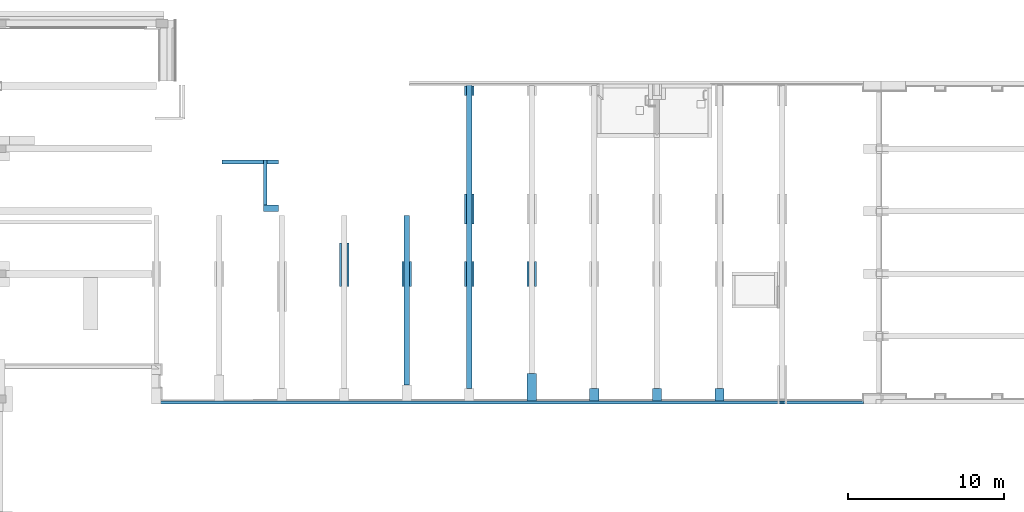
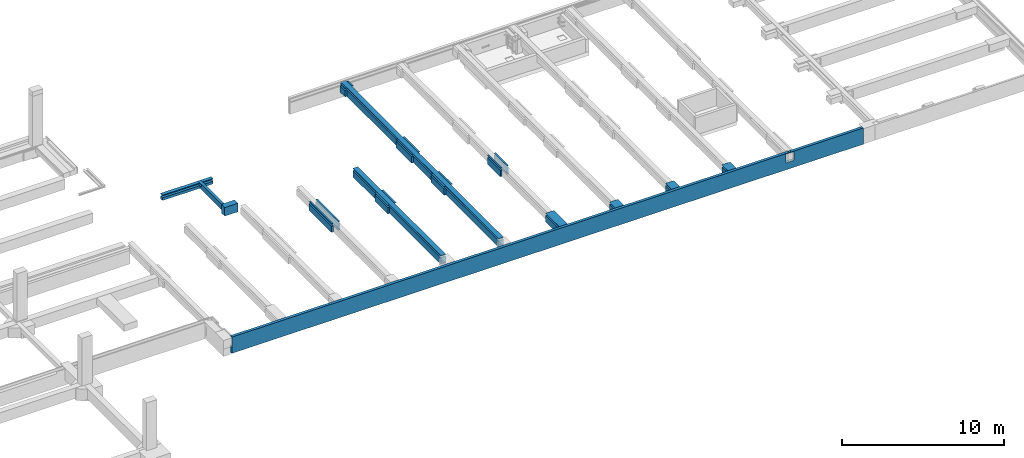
# One storey, part 5 of 17: 16 beams.
"""IFC2X3 building model written with IfcOpenShell, lengths in millimetres."""

from ifc_helpers import new_model, entity, si_unit, converted_unit, derived_unit, money_unit, direction, frame, origin_with_axes, place, context, subcontext, project, spatial, faceted_brep, material, type_object, element, save


model = new_model("IFC2X3")

# Units and contexts
model_context = context("Model", 3, precision=0.01, world=origin_with_axes(), true_north=direction((0.0, 1.0)))
body_context = subcontext(model_context, "Body", "Model", "MODEL_VIEW")
ifc_project = project(units=[si_unit("LENGTHUNIT", "METRE", prefix="MILLI"), si_unit("AREAUNIT", "SQUARE_METRE"), si_unit("VOLUMEUNIT", "CUBIC_METRE"), converted_unit("PLANEANGLEUNIT", "DEGREE", entity("IfcPlaneAngleMeasure", 0.0174532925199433), si_unit("PLANEANGLEUNIT", "RADIAN"), dimensions=[0, 0, 0, 0, 0, 0, 0]), money_unit("EUR"), converted_unit("TIMEUNIT", "Year", entity("IfcTimeMeasure", 31557600.0), si_unit("TIMEUNIT", "SECOND"), dimensions=[0, 0, 1, 0, 0, 0, 0]), si_unit("MASSUNIT", "GRAM", prefix="KILO"), si_unit("THERMODYNAMICTEMPERATUREUNIT", "DEGREE_CELSIUS"), si_unit("LUMINOUSINTENSITYUNIT", "LUMEN"), si_unit("ENERGYUNIT", "JOULE", prefix="MEGA"), derived_unit("THERMALCONDUCTANCEUNIT", [(si_unit("POWERUNIT", "WATT"), 1), (si_unit("LENGTHUNIT", "METRE"), -1), (si_unit("THERMODYNAMICTEMPERATUREUNIT", "KELVIN"), -1)]), derived_unit("SPECIFICHEATCAPACITYUNIT", [(si_unit("ENERGYUNIT", "JOULE"), 1), (si_unit("MASSUNIT", "GRAM", prefix="KILO"), -1), (si_unit("THERMODYNAMICTEMPERATUREUNIT", "KELVIN"), -1)]), derived_unit("MASSDENSITYUNIT", [(si_unit("MASSUNIT", "GRAM", prefix="KILO"), 1), (si_unit("VOLUMEUNIT", "CUBIC_METRE"), -1)])], contexts=[model_context])

# Site, building, storey
site_placement = place(None, origin_with_axes())
site = spatial("IfcSite", under=ifc_project, at=site_placement, Name="<site naam>", CompositionType="ELEMENT")
building_placement = place(site_placement, origin_with_axes())
building = spatial("IfcBuilding", under=site, at=building_placement, Name="<Naam gebouw>", CompositionType="ELEMENT")
storey_placement = place(building_placement, frame((0.0, 0.0, -1100.0), z_axis=(0.0, 0.0, 1.0), x_axis=(1.0, 0.0, 0.0)))
storey = spatial("IfcBuildingStorey", under=building, at=storey_placement, Name="-1 Fundering", CompositionType="ELEMENT", Elevation=-1100.0)

# Beams
ifc_material = material(Name="beton_gewapend C")
beam_type_1 = type_object("IfcBeamType", Name="beton_gewapend C 200 x 400", PredefinedType="BEAM")
beam_1_placement = place(storey_placement, frame((19055.00000000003, 15285.00000000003, 1100.0), z_axis=(0.0, 0.0, 1.0), x_axis=(-1.0, 0.0, 0.0)))
element("IfcBeam", 1, at=beam_1_placement, inside=storey, type_object=beam_type_1, material=ifc_material, Name="28_Balk_beton_gewapend", ObjectType="BEAM", context=body_context, shape_type="Brep", body=[
    faceted_brep([(0.0, 0.0, -200.0), (0.0, 419.8529820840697, -200.0), (0.0, 419.8529820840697, -50.00000000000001), (0.0, 0.0, -50.00000000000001), (0.0, 0.0, 0.0), (0.0, 2900.000011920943, 0.0), (0.0, 2900.000011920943, -400.0), (0.0, 0.0, -400.0), (199.9999999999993, 419.8267328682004, -200.0), (199.9999999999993, 0.0, -200.0), (199.9999999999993, 419.8267328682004, -50.00000000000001), (199.9999999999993, 0.0, -50.00000000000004), (199.9999999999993, 0.0, 0.0), (199.9999999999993, 2900.000011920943, 0.0), (199.9999999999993, 2900.000011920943, -400.0), (199.9999999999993, 0.0, -400.0)], [[[0, 1, 2, 3, 4, 5, 6, 7]], [[8, 1, 0, 9]], [[10, 2, 1, 8]], [[10, 11, 3, 2]], [[4, 3, 11, 12]], [[4, 12, 13, 5]], [[13, 14, 6, 5]], [[15, 7, 6, 14]], [[15, 9, 0, 7]], [[10, 8, 9, 15, 14, 13, 12, 11]]]),
])
beam_type_2 = type_object("IfcBeamType", Name="beton_gewapend C 410 x 650", PredefinedType="BEAM")
beam_2_placement = place(storey_placement, frame((18855.00000000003, 11974.99998807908, 1100.0), z_axis=(0.0, 0.0, 1.0), x_axis=(0.0, -1.0, 0.0)))
element("IfcBeam", 2, at=beam_2_placement, inside=storey, type_object=beam_type_2, material=ifc_material, Name="28_Balk_beton_gewapend", ObjectType="BEAM", context=body_context, shape_type="Brep", body=[
    faceted_brep([(0.0, 0.0, 0.0), (-1.192094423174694e-05, 945.0000000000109, 0.0), (-410.0000000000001, 945.0000000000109, 0.0), (-410.0000000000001, 0.0, 0.0), (0.0, 0.0, -650.0000000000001), (-1.192094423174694e-05, 945.0000000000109, -649.9999999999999), (-410.0000000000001, 945.0000000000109, -650.0000000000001), (-410.0000000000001, 0.0, -650.0000000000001)], [[[0, 1, 2, 3]], [[4, 5, 1, 0]], [[5, 6, 2, 1]], [[3, 2, 6, 7]], [[0, 3, 7, 4]], [[7, 6, 5, 4]]]),
])
beam_type_3 = type_object("IfcBeamType", Name="beton_gewapend C 250 x 400", PredefinedType="BEAM")
beam_3_placement = place(storey_placement, frame((16000.00000000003, 15035.00000000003, 1100.0), z_axis=(0.0, 0.0, 1.0), x_axis=(0.0, -1.0, 0.0)))
element("IfcBeam", 3, at=beam_3_placement, inside=storey, type_object=beam_type_3, material=ifc_material, Name="28_Balk_beton_gewapend", ObjectType="BEAM", context=body_context, shape_type="Brep", body=[
    faceted_brep([(-250.0, 200.0000000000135, -400.0), (-250.0, 200.0000000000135, -200.0), (-250.0, 2855.000000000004, -200.0), (-250.0, 2855.000000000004, -400.0), (0.0, 200.0000000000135, -400.0), (0.0, 200.0000000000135, -200.0), (0.0, 2855.000000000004, -200.0), (0.0, 2855.000000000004, -400.0)], [[[0, 1, 2, 3]], [[4, 5, 1, 0]], [[5, 6, 2, 1]], [[3, 2, 6, 7]], [[4, 0, 3, 7]], [[7, 6, 5, 4]]]),
    faceted_brep([(-250.0, 3055.000000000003, -400.0), (-250.0, 3055.000000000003, -200.0), (-250.0000000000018, 3800.000000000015, -200.0), (-250.0, 3800.000000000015, -400.0), (0.0, 3055.000000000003, -400.0), (0.0, 3055.000000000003, -200.0), (0.0, 3800.000000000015, -200.0), (0.0, 3800.000000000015, -400.0)], [[[0, 1, 2, 3]], [[4, 5, 1, 0]], [[5, 6, 2, 1]], [[3, 2, 6, 7]], [[3, 7, 4, 0]], [[7, 6, 5, 4]]]),
    faceted_brep([(0.0, 2855.000000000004, 0.0), (0.0, 2855.000000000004, -50.00000000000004), (-250.0, 2855.000000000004, -50.00000000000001), (-250.0, 2855.000000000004, 0.0), (0.0, 200.0000000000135, 0.0), (0.0, 200.0000000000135, -50.00000000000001), (-250.0, 200.0000000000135, -50.00000000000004), (-250.0, 200.0000000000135, 0.0)], [[[0, 1, 2, 3]], [[4, 5, 1, 0]], [[5, 6, 2, 1]], [[3, 2, 6, 7]], [[7, 4, 0, 3]], [[7, 6, 5, 4]]]),
    faceted_brep([(0.0, 3800.000000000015, 0.0), (0.0, 3800.000000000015, -50.00000000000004), (-250.0000000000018, 3800.000000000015, -50.00000000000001), (-250.0000000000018, 3800.000000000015, 0.0), (0.0, 3055.000000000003, 0.0), (0.0, 3055.000000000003, -50.00000000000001), (-250.0, 3055.000000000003, -50.00000000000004), (-250.0, 3055.000000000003, 0.0)], [[[0, 1, 2, 3]], [[4, 5, 1, 0]], [[5, 6, 2, 1]], [[3, 2, 6, 7]], [[0, 3, 7, 4]], [[7, 6, 5, 4]]]),
])
beam_type_4 = type_object("IfcBeamType", Name="beton_gewapend C 600 x 650", PredefinedType="BEAM")
beam_4_placement = place(storey_placement, frame((32000.00000000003, 13100.00000000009, 1070.0), z_axis=(0.0, 0.0, 1.0), x_axis=(-1.0, 0.0, 0.0)))
element("IfcBeam", 4, at=beam_4_placement, inside=storey, type_object=beam_type_4, material=ifc_material, Name="28_Balk_beton_gewapend", ObjectType="BEAM", context=body_context, shape_type="Brep", body=[
    faceted_brep([(300.0000000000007, 0.0, -650.0000000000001), (300.0000000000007, 0.0, -170.0), (175.0000000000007, 0.0, -170.0), (175.0000000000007, 0.0, -650.0000000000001), (300.0000000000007, 1905.54614990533, -650.0000000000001), (300.0000000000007, 1905.54614990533, -170.0), (175.0000000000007, 1905.54614990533, -170.0), (175.0000000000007, 1905.546149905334, -650.0000000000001)], [[[0, 1, 2, 3]], [[4, 5, 1, 0]], [[5, 6, 2, 1]], [[3, 2, 6, 7]], [[7, 4, 0, 3]], [[7, 6, 5, 4]]]),
    faceted_brep([(-174.9999999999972, 0.0, -650.0000000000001), (-174.9999999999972, 0.0, -170.0), (-299.9999999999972, 0.0, -170.0), (-299.9999999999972, 0.0, -650.0000000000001), (-174.9999999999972, 1905.54614990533, -650.0000000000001), (-174.9999999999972, 1905.54614990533, -170.0), (-299.9999999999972, 1905.54614990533, -170.0), (-299.9999999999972, 1905.54614990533, -650.0000000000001)], [[[0, 1, 2, 3]], [[4, 5, 1, 0]], [[5, 6, 2, 1]], [[3, 2, 6, 7]], [[0, 3, 7, 4]], [[7, 6, 5, 4]]]),
    faceted_brep([(175.0000000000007, 1905.54614990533, 0.0), (175.0000000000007, 1905.54614990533, -20.00000000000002), (175.0000000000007, 0.0, -20.00000000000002), (175.0000000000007, 0.0, 0.0), (300.0000000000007, 1905.54614990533, 0.0), (300.0000000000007, 1905.54614990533, -20.00000000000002), (300.0000000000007, 0.0, -20.00000000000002), (300.0000000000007, 0.0, 0.0)], [[[0, 1, 2, 3]], [[4, 5, 1, 0]], [[5, 6, 2, 1]], [[3, 2, 6, 7]], [[3, 7, 4, 0]], [[7, 6, 5, 4]]]),
    faceted_brep([(-299.9999999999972, 1905.54614990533, 0.0), (-299.9999999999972, 1905.54614990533, -20.00000000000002), (-299.9999999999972, 0.0, -20.00000000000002), (-299.9999999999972, 0.0, 0.0), (-174.9999999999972, 1905.54614990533, 0.0), (-174.9999999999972, 1905.54614990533, -20.00000000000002), (-174.9999999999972, 0.0, -20.00000000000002), (-174.9999999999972, 0.0, 0.0)], [[[0, 1, 2, 3]], [[4, 5, 1, 0]], [[5, 6, 2, 1]], [[3, 2, 6, 7]], [[4, 0, 3, 7]], [[7, 6, 5, 4]]]),
])
beam_5_placement = place(storey_placement, frame((32000.00000000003, 8794.453850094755, 1070.0), z_axis=(0.0, 0.0, 1.0), x_axis=(-1.0, 0.0, 0.0)))
element("IfcBeam", 5, at=beam_5_placement, inside=storey, type_object=beam_type_4, material=ifc_material, Name="28_Balk_beton_gewapend", ObjectType="BEAM", context=body_context, shape_type="Brep", body=[
    faceted_brep([(300.0000000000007, 0.0, -650.0000000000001), (300.0000000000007, 0.0, -170.0), (174.9999999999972, 0.0, -170.0), (174.9999999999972, 0.0, -650.0000000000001), (300.0000000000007, 1599.999999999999, -650.0000000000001), (300.0000000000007, 1599.999999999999, -170.0), (174.9999999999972, 1599.999999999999, -170.0), (174.9999999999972, 1599.999999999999, -650.0000000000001)], [[[0, 1, 2, 3]], [[4, 5, 1, 0]], [[5, 6, 2, 1]], [[3, 2, 6, 7]], [[7, 4, 0, 3]], [[7, 6, 5, 4]]]),
    faceted_brep([(-175.0000000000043, 0.0, -650.0000000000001), (-175.0000000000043, 0.0, -170.0), (-299.9999999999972, 0.0, -170.0), (-299.9999999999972, 0.0, -650.0000000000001), (-175.0000000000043, 1599.999999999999, -650.0000000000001), (-175.0000000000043, 1599.999999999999, -170.0), (-299.9999999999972, 1599.999999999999, -170.0), (-299.9999999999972, 1599.999999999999, -650.0000000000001)], [[[0, 1, 2, 3]], [[4, 5, 1, 0]], [[5, 6, 2, 1]], [[3, 2, 6, 7]], [[0, 3, 7, 4]], [[7, 6, 5, 4]]]),
    faceted_brep([(174.9999999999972, 1599.999999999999, 0.0), (174.9999999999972, 1599.999999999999, -20.00000000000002), (174.9999999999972, 0.0, -20.00000000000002), (174.9999999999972, 0.0, 0.0), (300.0000000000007, 1599.999999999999, 0.0), (300.0000000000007, 1599.999999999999, -20.00000000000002), (300.0000000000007, 0.0, -20.00000000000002), (300.0000000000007, 0.0, 0.0)], [[[0, 1, 2, 3]], [[4, 5, 1, 0]], [[5, 6, 2, 1]], [[3, 2, 6, 7]], [[3, 7, 4, 0]], [[7, 6, 5, 4]]]),
    faceted_brep([(-299.9999999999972, 1599.999999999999, 0.0), (-299.9999999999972, 1599.999999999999, -20.00000000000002), (-299.9999999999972, 0.0, -20.00000000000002), (-299.9999999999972, 0.0, 0.0), (-175.0000000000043, 1599.999999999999, 0.0), (-175.0000000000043, 1599.999999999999, -20.00000000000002), (-175.0000000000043, 0.0, -20.00000000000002), (-175.0000000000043, 0.0, 0.0)], [[[0, 1, 2, 3]], [[4, 5, 1, 0]], [[5, 6, 2, 1]], [[3, 2, 6, 7]], [[4, 0, 3, 7]], [[7, 6, 5, 4]]]),
])
beam_6_placement = place(storey_placement, frame((32000.00000000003, 20000.00000000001, 1070.0), z_axis=(0.0, 0.0, 1.0), x_axis=(-1.0, 0.0, 0.0)))
element("IfcBeam", 6, at=beam_6_placement, inside=storey, type_object=beam_type_4, material=ifc_material, Name="28_Balk_beton_gewapend", ObjectType="BEAM", context=body_context, shape_type="Brep", body=[
    faceted_brep([(300.0000000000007, 0.0, -650.0000000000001), (300.0000000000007, 0.0, -170.0), (175.0000000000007, 0.0, -170.0), (175.0000000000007, 0.0, -650.0000000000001), (300.0000000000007, 600.0000000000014, -650.0000000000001), (300.0000000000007, 600.0000000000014, -170.0), (175.0000000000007, 600.0000000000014, -170.0), (175.0000000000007, 600.0000000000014, -650.0000000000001)], [[[0, 1, 2, 3]], [[4, 5, 1, 0]], [[5, 6, 2, 1]], [[3, 2, 6, 7]], [[7, 4, 0, 3]], [[7, 6, 5, 4]]]),
    faceted_brep([(-174.9999999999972, 0.0, -650.0000000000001), (-174.9999999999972, 0.0, -170.0), (-299.9999999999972, 0.0, -170.0), (-299.9999999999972, 0.0, -650.0000000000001), (-174.9999999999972, 600.0000000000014, -650.0000000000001), (-174.9999999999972, 600.0000000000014, -170.0), (-299.9999999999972, 600.0000000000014, -170.0), (-299.9999999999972, 600.0000000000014, -650.0000000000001)], [[[0, 1, 2, 3]], [[4, 5, 1, 0]], [[5, 6, 2, 1]], [[3, 2, 6, 7]], [[0, 3, 7, 4]], [[7, 6, 5, 4]]]),
    faceted_brep([(175.0000000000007, 600.0000000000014, 0.0), (175.0000000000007, 600.0000000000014, -20.00000000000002), (175.0000000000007, 0.0, -20.00000000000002), (175.0000000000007, 0.0, 0.0), (300.0000000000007, 600.0000000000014, 0.0), (300.0000000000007, 600.0000000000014, -20.00000000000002), (300.0000000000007, 0.0, -20.00000000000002), (300.0000000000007, 0.0, 0.0)], [[[0, 1, 2, 3]], [[4, 5, 1, 0]], [[5, 6, 2, 1]], [[3, 2, 6, 7]], [[3, 7, 4, 0]], [[7, 6, 5, 4]]]),
    faceted_brep([(-299.9999999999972, 600.0000000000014, 0.0), (-299.9999999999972, 600.0000000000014, -20.00000000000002), (-299.9999999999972, 0.0, -20.00000000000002), (-299.9999999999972, 0.0, 0.0), (-174.9999999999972, 600.0000000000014, 0.0), (-174.9999999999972, 600.0000000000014, -20.00000000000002), (-174.9999999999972, 0.0, -20.00000000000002), (-174.9999999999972, 0.0, 0.0)], [[[0, 1, 2, 3]], [[4, 5, 1, 0]], [[5, 6, 2, 1]], [[3, 2, 6, 7]], [[4, 0, 3, 7]], [[7, 6, 5, 4]]]),
])
beam_7_placement = place(storey_placement, frame((36000.00000000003, 8794.453850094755, 1070.0), z_axis=(0.0, 0.0, 1.0), x_axis=(-1.0, 0.0, 0.0)))
element("IfcBeam", 7, at=beam_7_placement, inside=storey, type_object=beam_type_4, material=ifc_material, Name="28_Balk_beton_gewapend", ObjectType="BEAM", context=body_context, shape_type="Brep", body=[
    faceted_brep([(299.9999999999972, 0.0, -650.0000000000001), (299.9999999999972, 0.0, -170.0), (174.9999999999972, 0.0, -170.0), (174.9999999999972, 0.0, -650.0000000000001), (299.9999999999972, 1599.999999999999, -650.0000000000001), (299.9999999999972, 1599.999999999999, -170.0), (174.9999999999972, 1599.999999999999, -170.0), (174.9999999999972, 1599.999999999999, -650.0000000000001)], [[[0, 1, 2, 3]], [[4, 5, 1, 0]], [[5, 6, 2, 1]], [[3, 2, 6, 7]], [[7, 4, 0, 3]], [[7, 6, 5, 4]]]),
    faceted_brep([(-175.0000000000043, 0.0, -650.0000000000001), (-175.0000000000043, 0.0, -170.0), (-299.9999999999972, 0.0, -170.0), (-299.9999999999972, 0.0, -650.0000000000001), (-175.0000000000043, 1599.999999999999, -650.0000000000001), (-175.0000000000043, 1599.999999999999, -170.0), (-299.9999999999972, 1599.999999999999, -170.0), (-299.9999999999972, 1599.999999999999, -650.0000000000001)], [[[0, 1, 2, 3]], [[4, 5, 1, 0]], [[5, 6, 2, 1]], [[3, 2, 6, 7]], [[0, 3, 7, 4]], [[7, 6, 5, 4]]]),
    faceted_brep([(174.9999999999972, 1599.999999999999, 0.0), (174.9999999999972, 1599.999999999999, -20.00000000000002), (174.9999999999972, 0.0, -20.00000000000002), (174.9999999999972, 0.0, 0.0), (299.9999999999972, 1599.999999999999, 0.0), (299.9999999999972, 1599.999999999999, -20.00000000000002), (299.9999999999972, 0.0, -20.00000000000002), (299.9999999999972, 0.0, 0.0)], [[[0, 1, 2, 3]], [[4, 5, 1, 0]], [[5, 6, 2, 1]], [[3, 2, 6, 7]], [[3, 7, 4, 0]], [[7, 6, 5, 4]]]),
    faceted_brep([(-299.9999999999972, 1599.999999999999, 0.0), (-299.9999999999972, 1599.999999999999, -20.00000000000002), (-299.9999999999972, 0.0, -20.00000000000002), (-299.9999999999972, 0.0, 0.0), (-175.0000000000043, 1599.999999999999, 0.0), (-175.0000000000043, 1599.999999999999, -20.00000000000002), (-175.0000000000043, 0.0, -20.00000000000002), (-175.0000000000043, 0.0, 0.0)], [[[0, 1, 2, 3]], [[4, 5, 1, 0]], [[5, 6, 2, 1]], [[3, 2, 6, 7]], [[4, 0, 3, 7]], [[7, 6, 5, 4]]]),
])
beam_8_placement = place(storey_placement, frame((36000.00000000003, 1610.000000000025, 1070.0), z_axis=(0.0, 0.0, 1.0), x_axis=(-1.0, 0.0, 0.0)))
element("IfcBeam", 8, at=beam_8_placement, inside=storey, type_object=beam_type_4, material=ifc_material, Name="28_Balk_beton_gewapend", ObjectType="BEAM", context=body_context, shape_type="Brep", body=[
    faceted_brep([(299.9999999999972, 0.0, -650.0000000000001), (299.9999999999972, 0.0, -170.0), (-299.9999999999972, 0.0, -170.0), (-299.9999999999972, 0.0, -650.0000000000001), (299.9999999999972, 1735.0, -650.0000000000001), (299.9999999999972, 1735.0, -170.0), (-299.9999999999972, 1734.999999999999, -170.0), (-299.9999999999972, 1734.999999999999, -650.0000000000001)], [[[0, 1, 2, 3]], [[4, 5, 1, 0]], [[5, 6, 2, 1]], [[3, 2, 6, 7]], [[0, 3, 7, 4]], [[7, 6, 5, 4]]]),
    faceted_brep([(-299.9999999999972, 1734.999999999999, 0.0), (-299.9999999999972, 1734.999999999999, -20.00000000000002), (-299.9999999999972, 0.0, -20.00000000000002), (-299.9999999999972, 0.0, 0.0), (299.9999999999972, 1735.0, 0.0), (299.9999999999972, 1735.0, -20.00000000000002), (299.9999999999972, 0.0, -20.00000000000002), (299.9999999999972, 0.0, 0.0)], [[[0, 1, 2, 3]], [[4, 5, 1, 0]], [[5, 6, 2, 1]], [[3, 2, 6, 7]], [[3, 7, 4, 0]], [[7, 6, 5, 4]]]),
])
beam_9_placement = place(storey_placement, frame((48000.00000000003, 675.0000137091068, 1070.0), z_axis=(0.0, 0.0, 1.0), x_axis=(-1.0, 0.0, 0.0)))
element("IfcBeam", 9, at=beam_9_placement, inside=storey, type_object=beam_type_4, material=ifc_material, Name="28_Balk_beton_gewapend", ObjectType="BEAM", context=body_context, shape_type="Brep", body=[
    faceted_brep([(299.9999999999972, 0.0, -650.0000000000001), (299.9999999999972, 0.0, -170.0), (-299.9999999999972, 0.0, -170.0), (-299.9999999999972, 0.0, -650.0000000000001), (299.9999999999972, 800.0000137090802, -650.0000000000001), (299.9999999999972, 800.0000137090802, -170.0), (-299.9999999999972, 800.0000137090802, -170.0), (-299.9999999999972, 800.0000137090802, -650.0000000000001)], [[[0, 1, 2, 3]], [[4, 5, 1, 0]], [[5, 6, 2, 1]], [[3, 2, 6, 7]], [[0, 3, 7, 4]], [[7, 6, 5, 4]]]),
    faceted_brep([(-299.9999999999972, 800.0000137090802, 0.0), (-299.9999999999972, 800.0000137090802, -20.00000000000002), (-299.9999999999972, 0.0, -20.00000000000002), (-299.9999999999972, 0.0, 0.0), (299.9999999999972, 800.0000137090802, 0.0), (299.9999999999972, 800.0000137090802, -20.00000000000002), (299.9999999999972, 0.0, -20.00000000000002), (299.9999999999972, 0.0, 0.0)], [[[0, 1, 2, 3]], [[4, 5, 1, 0]], [[5, 6, 2, 1]], [[3, 2, 6, 7]], [[3, 7, 4, 0]], [[7, 6, 5, 4]]]),
])
beam_10_placement = place(storey_placement, frame((44000.00000000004, 675.0000137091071, 1070.0), z_axis=(0.0, 0.0, 1.0), x_axis=(-1.0, 0.0, 0.0)))
element("IfcBeam", 10, at=beam_10_placement, inside=storey, type_object=beam_type_4, material=ifc_material, Name="28_Balk_beton_gewapend", ObjectType="BEAM", context=body_context, shape_type="Brep", body=[
    faceted_brep([(299.9999999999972, 0.0, -650.0000000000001), (299.9999999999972, 0.0, -170.0), (-299.9999999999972, 0.0, -170.0), (-299.9999999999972, 0.0, -650.0000000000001), (299.9999999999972, 800.0000137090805, -650.0000000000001), (299.9999999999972, 800.0000137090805, -170.0), (-299.9999999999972, 800.0000137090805, -170.0), (-299.9999999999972, 800.0000137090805, -650.0000000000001)], [[[0, 1, 2, 3]], [[4, 5, 1, 0]], [[5, 6, 2, 1]], [[3, 2, 6, 7]], [[0, 3, 7, 4]], [[7, 6, 5, 4]]]),
    faceted_brep([(-299.9999999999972, 800.0000137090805, 0.0), (-299.9999999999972, 800.0000137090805, -20.00000000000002), (-299.9999999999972, 0.0, -20.00000000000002), (-299.9999999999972, 0.0, 0.0), (299.9999999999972, 800.0000137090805, 0.0), (299.9999999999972, 800.0000137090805, -20.00000000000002), (299.9999999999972, 0.0, -20.00000000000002), (299.9999999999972, 0.0, 0.0)], [[[0, 1, 2, 3]], [[4, 5, 1, 0]], [[5, 6, 2, 1]], [[3, 2, 6, 7]], [[3, 7, 4, 0]], [[7, 6, 5, 4]]]),
])
beam_11_placement = place(storey_placement, frame((40000.00000000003, 675.0000000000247, 1070.0), z_axis=(0.0, 0.0, 1.0), x_axis=(-1.0, 0.0, 0.0)))
element("IfcBeam", 11, at=beam_11_placement, inside=storey, type_object=beam_type_4, material=ifc_material, Name="28_Balk_beton_gewapend", ObjectType="BEAM", context=body_context, shape_type="Brep", body=[
    faceted_brep([(299.9999999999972, 0.0, -650.0000000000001), (299.9999999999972, 0.0, -170.0), (-299.9999999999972, 0.0, -170.0), (-299.9999999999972, 0.0, -650.0000000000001), (299.9999999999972, 799.9999999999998, -650.0000000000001), (299.9999999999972, 799.9999999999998, -170.0), (-299.9999999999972, 799.9999999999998, -170.0), (-299.9999999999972, 799.9999999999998, -650.0000000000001)], [[[0, 1, 2, 3]], [[4, 5, 1, 0]], [[5, 6, 2, 1]], [[3, 2, 6, 7]], [[0, 3, 7, 4]], [[7, 6, 5, 4]]]),
    faceted_brep([(-299.9999999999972, 799.9999999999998, 0.0), (-299.9999999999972, 799.9999999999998, -20.00000000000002), (-299.9999999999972, 0.0, -20.00000000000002), (-299.9999999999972, 0.0, 0.0), (299.9999999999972, 799.9999999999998, 0.0), (299.9999999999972, 799.9999999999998, -20.00000000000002), (299.9999999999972, 0.0, -20.00000000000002), (299.9999999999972, 0.0, 0.0)], [[[0, 1, 2, 3]], [[4, 5, 1, 0]], [[5, 6, 2, 1]], [[3, 2, 6, 7]], [[3, 7, 4, 0]], [[7, 6, 5, 4]]]),
])
beam_12_placement = place(storey_placement, frame((28000.11263414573, 8794.418926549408, 1070.0), z_axis=(0.0, 0.0, 1.0), x_axis=(-1.0, 0.0, 0.0)))
element("IfcBeam", 12, at=beam_12_placement, inside=storey, type_object=beam_type_4, material=ifc_material, Name="28_Balk_beton_gewapend", ObjectType="BEAM", context=body_context, shape_type="Brep", body=[
    faceted_brep([(175.0015464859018, 0.0, -650.0000000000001), (175.0015464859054, -9.64721635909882e-08, -170.0), (174.9515227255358, 1599.999999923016, -170.0), (174.9515227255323, 1599.999999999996, -650.0000000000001), (300.0000000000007, 0.0, -650.0000000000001), (300.0000000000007, 0.0, -170.0), (300.0000000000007, 1599.999999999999, -170.0), (300.0000000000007, 1599.999999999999, -650.0000000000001)], [[[0, 1, 2, 3]], [[4, 5, 1, 0]], [[5, 6, 2, 1]], [[3, 2, 6, 7]], [[7, 4, 0, 3]], [[7, 6, 5, 4]]]),
    faceted_brep([(-175.0006592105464, 1.546798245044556e-07, -650.0000000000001), (-175.001267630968, 4.04529743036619e-08, -170.0), (-300.0000000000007, 0.0, -170.0), (-300.0000000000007, 0.0, -650.0000000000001), (-175.051887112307, 1600.000000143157, -650.0000000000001), (-175.052827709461, 1600.00000003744, -170.0), (-300.0000000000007, 1599.999999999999, -170.0), (-300.0000000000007, 1599.999999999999, -650.0000000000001)], [[[0, 1, 2, 3]], [[4, 5, 1, 0]], [[5, 6, 2, 1]], [[3, 2, 6, 7]], [[3, 7, 4, 0]], [[7, 6, 5, 4]]]),
    faceted_brep([(300.0000000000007, 1599.999999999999, 0.0), (300.0000000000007, 1599.999999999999, -20.00000000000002), (174.9515227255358, 1599.99999989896, -20.00000000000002), (174.9515227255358, 1599.999999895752, 0.0), (300.0000000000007, 0.0, 0.0), (300.0000000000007, 0.0, -20.00000000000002), (175.0015464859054, -1.266204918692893e-07, -20.00000000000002), (175.0015464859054, -1.30640387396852e-07, 0.0)], [[[0, 1, 2, 3]], [[4, 5, 1, 0]], [[5, 6, 2, 1]], [[3, 2, 6, 7]], [[4, 0, 3, 7]], [[7, 6, 5, 4]]]),
    faceted_brep([(-300.0000000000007, 1599.999999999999, 0.0), (-300.0000000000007, 1599.999999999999, -20.00000000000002), (-300.0000000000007, 0.0, -20.00000000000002), (-300.0000000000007, 0.0, 0.0), (-175.0531608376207, 1599.999999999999, 0.0), (-175.0531216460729, 1600.000000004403, -20.00000000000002), (-175.0014577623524, 4.757083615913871e-09, -20.00000000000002), (-175.0014831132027, 0.0, 0.0)], [[[0, 1, 2, 3]], [[4, 5, 1, 0]], [[5, 6, 2, 1]], [[3, 2, 6, 7]], [[0, 3, 7, 4]], [[7, 6, 5, 4]]]),
])
beam_13_placement = place(storey_placement, frame((24000.00000000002, 9981.852341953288, 1070.0), z_axis=(0.0, 0.0, 1.0), x_axis=(-1.0, 0.0, 0.0)))
element("IfcBeam", 13, at=beam_13_placement, inside=storey, type_object=beam_type_4, material=ifc_material, Name="28_Balk_beton_gewapend", ObjectType="BEAM", context=body_context, shape_type="Brep", body=[
    faceted_brep([(300.0000000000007, 0.0, -650.0000000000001), (300.0000000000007, 0.0, -170.0), (174.9999999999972, 0.0, -170.0), (174.9999999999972, 0.0, -650.0000000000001), (300.0000000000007, 2781.852341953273, -650.0000000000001), (300.0000000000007, 2781.852341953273, -170.0), (174.9999999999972, 2781.852341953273, -170.0), (174.9999999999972, 2781.852341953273, -650.0000000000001)], [[[0, 1, 2, 3]], [[4, 5, 1, 0]], [[5, 6, 2, 1]], [[3, 2, 6, 7]], [[7, 4, 0, 3]], [[7, 6, 5, 4]]]),
    faceted_brep([(-175.0000000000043, 0.0, -650.0000000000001), (-175.0000000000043, 0.0, -170.0), (-300.0000000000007, 0.0, -170.0), (-300.0000000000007, 0.0, -650.0000000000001), (-175.0000000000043, 2781.852341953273, -650.0000000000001), (-175.0000000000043, 2781.852341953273, -170.0), (-300.0000000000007, 2781.852341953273, -170.0), (-300.0000000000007, 2781.852341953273, -650.0000000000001)], [[[0, 1, 2, 3]], [[4, 5, 1, 0]], [[5, 6, 2, 1]], [[3, 2, 6, 7]], [[0, 3, 7, 4]], [[7, 6, 5, 4]]]),
    faceted_brep([(174.9999999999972, 2781.852341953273, 0.0), (174.9999999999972, 2781.852341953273, -20.00000000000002), (174.9999999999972, 0.0, -20.00000000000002), (174.9999999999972, 0.0, 0.0), (300.0000000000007, 2781.852341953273, 0.0), (300.0000000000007, 2781.852341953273, -20.00000000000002), (300.0000000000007, 0.0, -20.00000000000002), (300.0000000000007, 0.0, 0.0)], [[[0, 1, 2, 3]], [[4, 5, 1, 0]], [[5, 6, 2, 1]], [[3, 2, 6, 7]], [[3, 7, 4, 0]], [[7, 6, 5, 4]]]),
    faceted_brep([(-300.0000000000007, 2781.852341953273, 0.0), (-300.0000000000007, 2781.852341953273, -20.00000000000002), (-300.0000000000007, 0.0, -20.00000000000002), (-300.0000000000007, 0.0, 0.0), (-175.0000000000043, 2781.852341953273, 0.0), (-175.0000000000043, 2781.852341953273, -20.00000000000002), (-175.0000000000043, 0.0, -20.00000000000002), (-175.0000000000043, 0.0, 0.0)], [[[0, 1, 2, 3]], [[4, 5, 1, 0]], [[5, 6, 2, 1]], [[3, 2, 6, 7]], [[4, 0, 3, 7]], [[7, 6, 5, 4]]]),
])
beam_type_5 = type_object("IfcBeamType", Name="beton_gewapend C 350 x 650", PredefinedType="BEAM")
beam_14_placement = place(storey_placement, frame((32000.00000000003, 20335.00000000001, 1070.0), z_axis=(0.0, 0.0, 1.0), x_axis=(-1.0, 0.0, 0.0)))
element("IfcBeam", 14, at=beam_14_placement, inside=storey, type_object=beam_type_5, material=ifc_material, Name="28_Balk_beton_gewapend", ObjectType="BEAM", context=body_context, shape_type="Brep", body=[
    faceted_brep([(175.0000000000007, 200.0000000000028, -650.0000000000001), (175.0000000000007, 200.0000000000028, -170.0), (-174.9999999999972, 200.0000000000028, -170.0), (-174.9999999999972, 200.0000000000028, -650.0000000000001), (174.9999999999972, 19659.99999999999, -650.0000000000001), (174.9999999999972, 19659.99999999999, -170.0), (-175.0000000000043, 19659.99999999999, -170.0), (-175.0000000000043, 19659.99999999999, -650.0000000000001)], [[[0, 1, 2, 3]], [[4, 5, 1, 0]], [[5, 6, 2, 1]], [[3, 2, 6, 7]], [[7, 4, 0, 3]], [[7, 6, 5, 4]]]),
    faceted_brep([(-175.0000000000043, 19659.99999999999, 0.0), (-175.0000000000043, 19659.99999999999, -20.00000000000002), (-174.9999999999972, 200.0000000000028, -20.00000000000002), (-174.9999999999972, 200.0000000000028, 0.0), (174.9999999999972, 19659.99999999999, 0.0), (174.9999999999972, 19659.99999999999, -20.00000000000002), (175.0000000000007, 200.0000000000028, -20.00000000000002), (175.0000000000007, 200.0000000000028, 0.0)], [[[0, 1, 2, 3]], [[4, 5, 1, 0]], [[5, 6, 2, 1]], [[3, 2, 6, 7]], [[4, 0, 3, 7]], [[7, 6, 5, 4]]]),
])
beam_15_placement = place(storey_placement, frame((28000.019463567, 11724.99999983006, 1070.0), z_axis=(0.0, 0.0, 1.0), x_axis=(-0.9999999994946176, -3.179252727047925e-05, 0.0)))
element("IfcBeam", 15, at=beam_15_placement, inside=storey, type_object=beam_type_5, material=ifc_material, Name="28_Balk_beton_gewapend", ObjectType="BEAM", context=body_context, shape_type="Brep", body=[
    faceted_brep([(175.0062525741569, 11849.24391359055, -650.0000000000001), (175.0062525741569, 11849.24391359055, -170.0), (-175.0051250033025, 11849.1221897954, -170.0), (-175.0026650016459, 11849.12219065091, -650.0000000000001), (175.0062529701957, 11849.99444192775, -650.0000000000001), (175.0062529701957, 11849.99444192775, -170.0), (-175.0051253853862, 11850.00556967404, -170.0), (-175.0026652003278, 11850.00556959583, -650.0000000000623)], [[[0, 1, 2, 3]], [[4, 5, 1, 0]], [[5, 6, 2, 1]], [[3, 2, 6, 7]], [[0, 3, 7, 4]], [[7, 6, 5, 4]]]),
    faceted_brep([(-175.0000000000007, 0.0, -650.0000000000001), (-175.0000000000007, 0.0, -170.0), (-175.0046925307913, 10849.23607055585, -170.0), (-175.0024401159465, 10849.23607133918, -650.0000000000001), (175.0000000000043, 0.0, -650.0000000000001), (175.0000000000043, 0.0, -170.0), (175.0057249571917, 10849.35779401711, -170.0), (175.0057249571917, 10849.35779401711, -650.0000000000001)], [[[0, 1, 2, 3]], [[4, 5, 1, 0]], [[5, 6, 2, 1]], [[3, 2, 6, 7]], [[4, 0, 3, 7]], [[7, 6, 5, 4]]]),
    faceted_brep([(-175.0059967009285, 11850.00556970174, -1.397770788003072e-10), (-175.005894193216, 11850.00556969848, -20.00000000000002), (-175.0058937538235, 11849.12218952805, -20.00000000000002), (-175.0059962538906, 11849.1221894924, 0.0), (175.0062529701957, 11849.99444192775, 0.0), (175.0062529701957, 11849.99444192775, -20.00000000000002), (175.0062525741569, 11849.24391359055, -20.00000000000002), (175.0062525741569, 11849.24391359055, 0.0)], [[[0, 1, 2, 3]], [[4, 5, 1, 0]], [[5, 6, 2, 1]], [[3, 2, 6, 7]], [[3, 7, 4, 0]], [[7, 6, 5, 4]]]),
    faceted_brep([(175.0057249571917, 10849.35779401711, 0.0), (175.0057249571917, 10849.35779401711, -20.00000000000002), (-175.0053964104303, 10849.23607031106, -20.00000000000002), (-175.0054902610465, 10849.23607027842, 0.0), (175.0000000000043, 0.0, 0.0), (175.0000000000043, 0.0, -20.00000000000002), (-175.0000000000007, 0.0, -20.00000000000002), (-175.0000000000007, 0.0, 0.0)], [[[0, 1, 2, 3]], [[4, 5, 1, 0]], [[5, 6, 2, 1]], [[3, 2, 6, 7]], [[7, 4, 0, 3]], [[7, 6, 5, 4]]]),
])
beam_type_6 = type_object("IfcBeamType", Name="beton_gewapend C 200 x 1220", PredefinedType="BEAM")
beam_16_placement = place(storey_placement, frame((12260.00000000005, -324.999999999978, 1120.00001468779), z_axis=(0.0, 0.0, 1.0), x_axis=(0.0, -1.0, 0.0)))
element("IfcBeam", 16, at=beam_16_placement, inside=storey, type_object=beam_type_6, material=ifc_material, Name="28_Balk_beton_gewapend", ObjectType="BEAM", context=body_context, shape_type="Brep", body=[
    faceted_brep([(-200.0000000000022, 39439.99999999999, -220.0000146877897), (-100.0065623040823, 39439.99999999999, -220.0000146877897), (-100.0065623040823, 39439.99999999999, -70.00001468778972), (-200.0000000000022, 39439.99999999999, -70.00001468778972), (-200.0000000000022, 39439.99999999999, -50.00001468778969), (0.0, 39439.99999999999, -50.00001468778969), (0.0, 39439.99999999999, -700.0000146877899), (-200.0000000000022, 39439.99999999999, -700.0000146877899), (-100.0065623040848, 40.45099234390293, -220.0000146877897), (-199.9999999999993, 40.45099234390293, -220.0000146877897), (-100.0065623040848, 40.45099234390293, -70.00001468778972), (-199.9999999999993, 40.45099234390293, -70.00001468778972), (-199.9999999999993, 40.45099234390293, -700.0000146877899), (-200.0000000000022, 40039.99999999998, -700.0000146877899), (-200.0000000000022, 40039.99999999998, -50.00001468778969), (-199.9999999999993, 40.45099234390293, -50.00001468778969), (-199.9999999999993, 0.0, -50.00001468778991), (-199.9999999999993, 0.0, 0.0), (-200.000000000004, 39674.99999999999, 0.0), (-200.000000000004, 39674.99999999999, -20.00001468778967), (-200.000000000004, 39804.99999999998, -20.00001468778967), (-200.000000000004, 39804.99999999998, 0.0), (-200.0000000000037, 44939.99999999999, 0.0), (-200.0000000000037, 44939.99999999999, -1220.000014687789), (-199.9999999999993, 0.0, -1220.000014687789), (-199.9999999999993, 0.0, -700.0000146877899), (0.0, 40039.99999999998, -50.00001468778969), (0.0, 44939.99999999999, -1220.000014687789), (0.0, 44939.99999999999, 0.0), (0.0, 0.0, 0.0), (0.0, 0.0, -50.00001468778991), (0.0, 40.45099234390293, -50.00001468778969), (0.0, 40.45099234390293, -700.0000146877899), (0.0, 0.0, -700.0000146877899), (0.0, 0.0, -1220.000014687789), (0.0, 40039.99999999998, -700.0000146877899), (-0.9106781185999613, 39804.99999999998, 0.0), (-0.9106781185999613, 39674.99999999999, 0.0), (-0.9106781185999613, 39674.99999999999, -20.00001468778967), (-0.9106781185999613, 39804.99999999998, -20.00001468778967)], [[[0, 1, 2, 3, 4, 5, 6, 7]], [[8, 1, 0, 9]], [[10, 2, 1, 8]], [[10, 11, 3, 2]], [[12, 9, 0, 7, 13, 14, 4, 3, 11, 15, 16, 17, 18, 19, 20, 21, 22, 23, 24, 25]], [[4, 14, 26, 5]], [[27, 28, 29, 30, 31, 32, 33, 34], [35, 6, 5, 26]], [[13, 7, 6, 35]], [[10, 8, 9, 12, 32, 31, 15, 11]], [[14, 13, 35, 26]], [[30, 16, 15, 31]], [[17, 16, 30, 29]], [[21, 36, 37, 18, 17, 29, 28, 22]], [[37, 38, 19, 18]], [[38, 39, 20, 19]], [[20, 39, 36, 21]], [[28, 27, 23, 22]], [[34, 24, 23, 27]], [[34, 33, 25, 24]], [[32, 12, 25, 33]], [[39, 38, 37, 36]]]),
])

save(model, "model.ifc")
